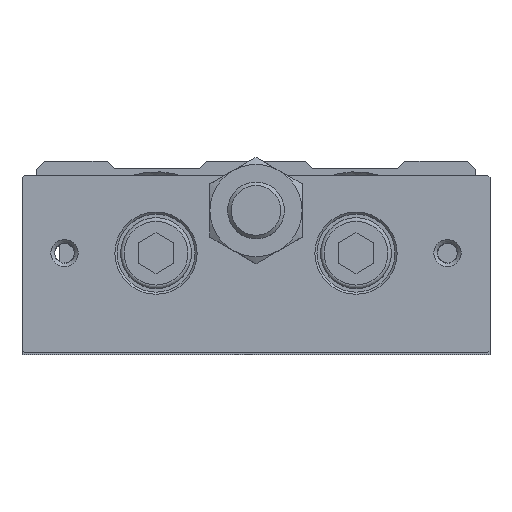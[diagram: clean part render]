
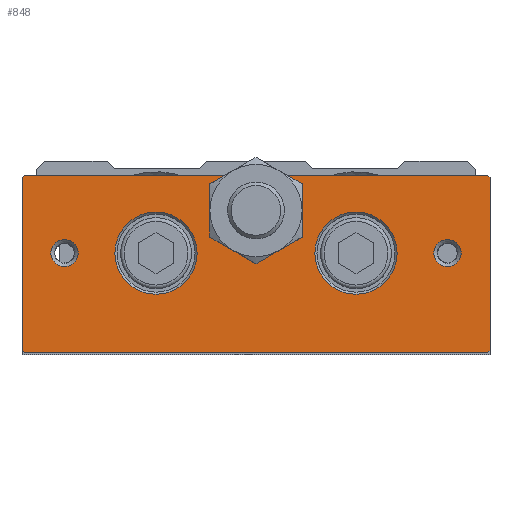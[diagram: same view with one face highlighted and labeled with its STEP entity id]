
A CAD part, top view. The second image highlights one B-rep face of the part: STEP entity #848.
In plain terms, the highlighted planar face has unit normal (0, 0, 1).
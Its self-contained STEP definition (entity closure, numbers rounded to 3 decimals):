
#629=CARTESIAN_POINT('',(-32.7,-14.5,120.0));
#630=VERTEX_POINT('',#629);
#637=CARTESIAN_POINT('',(-33.0,-14.2,120.0));
#638=VERTEX_POINT('',#637);
#639=CARTESIAN_POINT('',(-32.7,-14.5,120.0));
#640=DIRECTION('',(-0.707,0.707,0.0));
#641=VECTOR('',#640,0.424);
#642=LINE('',#639,#641);
#643=EDGE_CURVE('',#630,#638,#642,.T.);
#660=CARTESIAN_POINT('',(-33.0,10.2,120.0));
#661=VERTEX_POINT('',#660);
#662=CARTESIAN_POINT('',(-33.0,10.2,120.0));
#663=DIRECTION('',(0.0,-1.0,0.0));
#664=VECTOR('',#663,24.4);
#665=LINE('',#662,#664);
#666=EDGE_CURVE('',#661,#638,#665,.T.);
#696=CARTESIAN_POINT('',(0.0,-14.5,120.0));
#697=DIRECTION('',(0.0,0.0,1.0));
#698=DIRECTION('',(1.0,0.0,0.0));
#699=AXIS2_PLACEMENT_3D('',#696,#697,#698);
#700=PLANE('',#699);
#701=ORIENTED_EDGE('',*,*,#643,.F.);
#702=CARTESIAN_POINT('',(32.7,-14.5,120.0));
#703=VERTEX_POINT('',#702);
#704=CARTESIAN_POINT('',(-32.7,-14.5,120.0));
#705=DIRECTION('',(1.0,0.0,0.0));
#706=VECTOR('',#705,65.4);
#707=LINE('',#704,#706);
#708=EDGE_CURVE('',#630,#703,#707,.T.);
#709=ORIENTED_EDGE('',*,*,#708,.T.);
#710=CARTESIAN_POINT('',(33.0,-14.2,120.0));
#711=VERTEX_POINT('',#710);
#712=CARTESIAN_POINT('',(33.0,-14.2,120.0));
#713=DIRECTION('',(-0.707,-0.707,0.0));
#714=VECTOR('',#713,0.424);
#715=LINE('',#712,#714);
#716=EDGE_CURVE('',#711,#703,#715,.T.);
#717=ORIENTED_EDGE('',*,*,#716,.F.);
#718=CARTESIAN_POINT('',(33.0,10.2,120.0));
#719=VERTEX_POINT('',#718);
#720=CARTESIAN_POINT('',(33.0,-14.2,120.0));
#721=DIRECTION('',(0.0,1.0,0.0));
#722=VECTOR('',#721,24.4);
#723=LINE('',#720,#722);
#724=EDGE_CURVE('',#711,#719,#723,.T.);
#725=ORIENTED_EDGE('',*,*,#724,.T.);
#726=CARTESIAN_POINT('',(32.7,10.5,120.0));
#727=VERTEX_POINT('',#726);
#728=CARTESIAN_POINT('',(32.7,10.5,120.0));
#729=DIRECTION('',(0.707,-0.707,0.0));
#730=VECTOR('',#729,0.424);
#731=LINE('',#728,#730);
#732=EDGE_CURVE('',#727,#719,#731,.T.);
#733=ORIENTED_EDGE('',*,*,#732,.F.);
#734=CARTESIAN_POINT('',(4.153,10.5,120.0));
#735=VERTEX_POINT('',#734);
#736=CARTESIAN_POINT('',(32.7,10.5,120.0));
#737=DIRECTION('',(-1.0,0.0,0.0));
#738=VECTOR('',#737,28.547);
#739=LINE('',#736,#738);
#740=EDGE_CURVE('',#727,#735,#739,.T.);
#741=ORIENTED_EDGE('',*,*,#740,.T.);
#742=CARTESIAN_POINT('',(6.5,5.5,120.0));
#743=VERTEX_POINT('',#742);
#744=CARTESIAN_POINT('',(0.0,5.5,120.0));
#745=DIRECTION('',(0.0,0.0,1.0));
#746=DIRECTION('',(0.0,1.0,0.0));
#747=AXIS2_PLACEMENT_3D('',#744,#745,#746);
#748=CIRCLE('',#747,6.5);
#749=EDGE_CURVE('',#743,#735,#748,.T.);
#750=ORIENTED_EDGE('',*,*,#749,.F.);
#751=CARTESIAN_POINT('',(3.25,-0.129,120.0));
#752=VERTEX_POINT('',#751);
#753=CARTESIAN_POINT('',(0.0,5.5,120.0));
#754=DIRECTION('',(0.0,0.0,1.0));
#755=DIRECTION('',(0.0,1.0,0.0));
#756=AXIS2_PLACEMENT_3D('',#753,#754,#755);
#757=CIRCLE('',#756,6.5);
#758=EDGE_CURVE('',#752,#743,#757,.T.);
#759=ORIENTED_EDGE('',*,*,#758,.F.);
#760=CARTESIAN_POINT('',(-3.25,-0.129,120.0));
#761=VERTEX_POINT('',#760);
#762=CARTESIAN_POINT('',(0.0,5.5,120.0));
#763=DIRECTION('',(0.0,0.0,1.0));
#764=DIRECTION('',(0.0,1.0,0.0));
#765=AXIS2_PLACEMENT_3D('',#762,#763,#764);
#766=CIRCLE('',#765,6.5);
#767=EDGE_CURVE('',#761,#752,#766,.T.);
#768=ORIENTED_EDGE('',*,*,#767,.F.);
#769=CARTESIAN_POINT('',(-6.5,5.5,120.0));
#770=VERTEX_POINT('',#769);
#771=CARTESIAN_POINT('',(0.0,5.5,120.0));
#772=DIRECTION('',(0.0,0.0,1.0));
#773=DIRECTION('',(0.0,1.0,0.0));
#774=AXIS2_PLACEMENT_3D('',#771,#772,#773);
#775=CIRCLE('',#774,6.5);
#776=EDGE_CURVE('',#770,#761,#775,.T.);
#777=ORIENTED_EDGE('',*,*,#776,.F.);
#778=CARTESIAN_POINT('',(-4.153,10.5,120.0));
#779=VERTEX_POINT('',#778);
#780=CARTESIAN_POINT('',(0.0,5.5,120.0));
#781=DIRECTION('',(0.0,0.0,1.0));
#782=DIRECTION('',(0.0,1.0,0.0));
#783=AXIS2_PLACEMENT_3D('',#780,#781,#782);
#784=CIRCLE('',#783,6.5);
#785=EDGE_CURVE('',#779,#770,#784,.T.);
#786=ORIENTED_EDGE('',*,*,#785,.F.);
#787=CARTESIAN_POINT('',(-32.7,10.5,120.0));
#788=VERTEX_POINT('',#787);
#789=CARTESIAN_POINT('',(-4.153,10.5,120.0));
#790=DIRECTION('',(-1.0,0.0,0.0));
#791=VECTOR('',#790,28.547);
#792=LINE('',#789,#791);
#793=EDGE_CURVE('',#779,#788,#792,.T.);
#794=ORIENTED_EDGE('',*,*,#793,.T.);
#795=CARTESIAN_POINT('',(-33.0,10.2,120.0));
#796=DIRECTION('',(0.707,0.707,0.0));
#797=VECTOR('',#796,0.424);
#798=LINE('',#795,#797);
#799=EDGE_CURVE('',#661,#788,#798,.T.);
#800=ORIENTED_EDGE('',*,*,#799,.F.);
#801=ORIENTED_EDGE('',*,*,#666,.T.);
#802=EDGE_LOOP('',(#701,#709,#717,#725,#733,#741,#750,#759,#768,#777,#786,#794,#800,#801));
#803=FACE_OUTER_BOUND('',#802,.T.);
#804=CARTESIAN_POINT('',(19.9,-0.5,120.0));
#805=VERTEX_POINT('',#804);
#806=CARTESIAN_POINT('',(14.1,-0.5,120.0));
#807=DIRECTION('',(0.0,0.0,1.0));
#808=DIRECTION('',(-1.0,0.0,0.0));
#809=AXIS2_PLACEMENT_3D('',#806,#807,#808);
#810=CIRCLE('',#809,5.8);
#811=EDGE_CURVE('',#805,#805,#810,.T.);
#812=ORIENTED_EDGE('',*,*,#811,.F.);
#813=EDGE_LOOP('',(#812));
#814=FACE_BOUND('',#813,.T.);
#815=CARTESIAN_POINT('',(28.925,-0.5,120.0));
#816=VERTEX_POINT('',#815);
#817=CARTESIAN_POINT('',(27.,-0.5,120.0));
#818=DIRECTION('',(0.0,0.0,1.0));
#819=DIRECTION('',(-1.0,0.0,0.0));
#820=AXIS2_PLACEMENT_3D('',#817,#818,#819);
#821=CIRCLE('',#820,1.925);
#822=EDGE_CURVE('',#816,#816,#821,.T.);
#823=ORIENTED_EDGE('',*,*,#822,.F.);
#824=EDGE_LOOP('',(#823));
#825=FACE_BOUND('',#824,.T.);
#826=CARTESIAN_POINT('',(-25.075,-0.5,120.0));
#827=VERTEX_POINT('',#826);
#828=CARTESIAN_POINT('',(-27.0,-0.5,120.0));
#829=DIRECTION('',(0.0,0.0,1.0));
#830=DIRECTION('',(-1.0,0.0,0.0));
#831=AXIS2_PLACEMENT_3D('',#828,#829,#830);
#832=CIRCLE('',#831,1.925);
#833=EDGE_CURVE('',#827,#827,#832,.T.);
#834=ORIENTED_EDGE('',*,*,#833,.F.);
#835=EDGE_LOOP('',(#834));
#836=FACE_BOUND('',#835,.T.);
#837=CARTESIAN_POINT('',(-8.3,-0.5,120.0));
#838=VERTEX_POINT('',#837);
#839=CARTESIAN_POINT('',(-14.1,-0.5,120.0));
#840=DIRECTION('',(0.0,0.0,1.0));
#841=DIRECTION('',(-1.0,0.0,0.0));
#842=AXIS2_PLACEMENT_3D('',#839,#840,#841);
#843=CIRCLE('',#842,5.8);
#844=EDGE_CURVE('',#838,#838,#843,.T.);
#845=ORIENTED_EDGE('',*,*,#844,.F.);
#846=EDGE_LOOP('',(#845));
#847=FACE_BOUND('',#846,.T.);
#848=ADVANCED_FACE('',(#803,#814,#825,#836,#847),#700,.T.);
